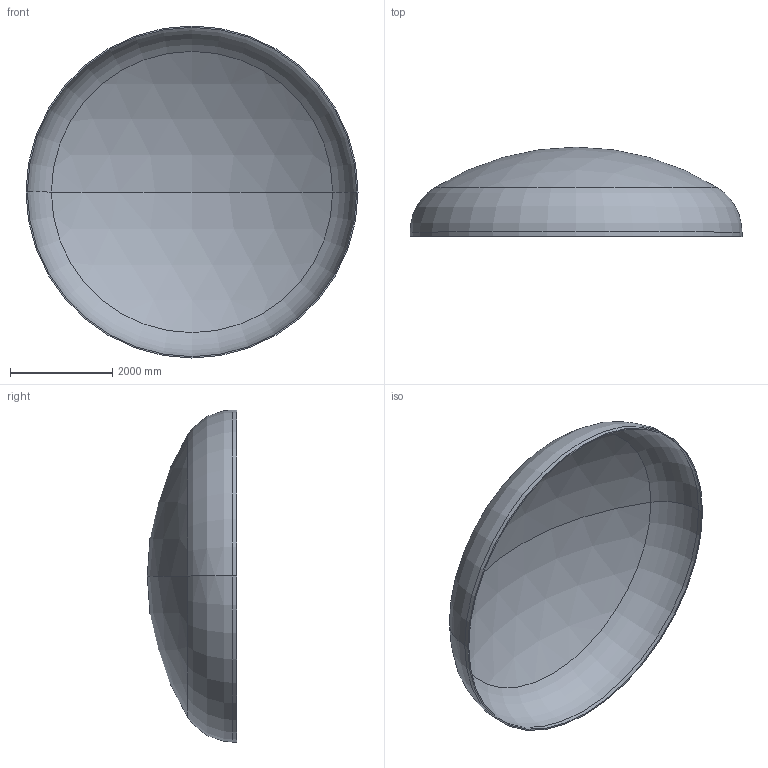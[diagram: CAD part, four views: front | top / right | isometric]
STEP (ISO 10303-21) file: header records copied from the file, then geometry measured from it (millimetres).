
FILE_DESCRIPTION (( 'STEP AP203' ), '1' );
FILE_NAME ('DIN 28013 Korbbogenform_-_Boden DIN 28013 - 6500 x 85 - I - s=26.step', '2016-07-04T10:40:50', ( '' ), ( '' ), 'SwSTEP 2.0', 'SolidWorks 2013', '' );
FILE_SCHEMA (( 'CONFIG_CONTROL_DESIGN' ));
Length unit declared in the file: millimetre
Products named in the file (1): DIN 28013 Korbbogenform_-_Boden DIN 28013 - 6500 x 85 - I - s=26
Bounding box: 6500 x 1748.16 x 6500 mm (x, y, z)
Volume: 1233386273.6 mm3; surface area: 95406050.4 mm2
Topology: 1 solids, 1 shells, 13 faces, 24 edges, 14 vertices
Faces by surface type: torus 4, cylinder 4, sphere 4, plane 1
Entity records: 407 total; most frequent: DIRECTION 72, CARTESIAN_POINT 52, ORIENTED_EDGE 48, AXIS2_PLACEMENT_3D 34, EDGE_CURVE 24, CIRCLE 20, VERTEX_POINT 14, EDGE_LOOP 14
